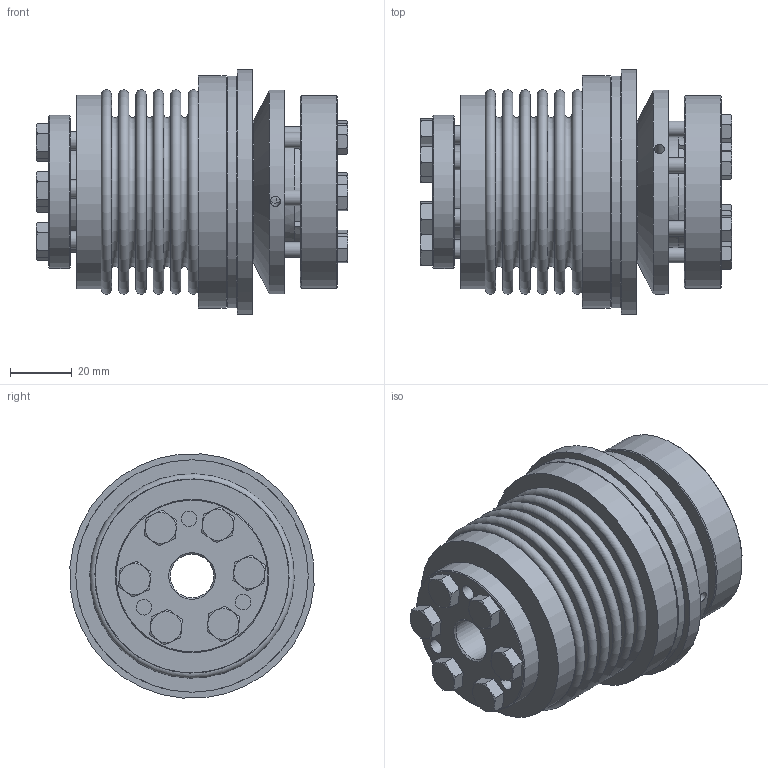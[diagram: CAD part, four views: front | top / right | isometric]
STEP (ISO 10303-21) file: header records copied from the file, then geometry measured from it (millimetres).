
FILE_DESCRIPTION( ( 'Unknown' ), '1' );
FILE_NAME( 'K:/Konstruktion/Korrigierte 3D Modelle/KBK-B-IA/KBK-BIA-60-100.stp', 'Unknown', ( 'Unknown' ), ( 'Unknown' ), 'PSStep 16.0.42', 'Unknown', ' ' );
FILE_SCHEMA( ( 'AUTOMOTIVE_DESIGN { 1 0 10303 214 1 1 1 1 }' ) );
Length unit declared in the file: millimetre
Products named in the file (18): KBK L-A-60 Grundkörper_0; Druckring 60_0; Stellring 60_0; din_en_24017_m5x20_0; Druckring L-A-60_0; BA5-60; BA60_Standard_2; Hex Screw GradeC_DIN_ISO 4018 - M6 x 20-NN_2; KB60_Standard_0; A-60; Assem1; BL60_Standard_0; Flansch BK60
Assembly tree (27 placements, depth 4):
  Assem1
    BL60_Standard_0
    Flansch BK60
    BA5-60
      BA60_Standard_2
      Hex Screw GradeC_DIN_ISO 4018 - M6 x 20-NN_2  x6
      KB60_Standard_0
    A-60
      Stellring 60_0
        Stellring 60_0
      Druckring 60_0
        Druckring 60_0
      KBK L-A-60 Grundkörper_0
        KBK L-A-60 Grundkörper_0
      din_en_24017_m5x20_0  x6
        din_en_24017_m5x20_0
      Druckring L-A-60_0
        Druckring L-A-60_0
Bounding box: 100.55 x 78.76 x 78.76 mm (x, y, z)
Volume: 208884 mm3; surface area: 125235.1 mm2
Topology: 20 solids, 20 shells, 416 faces, 854 edges, 541 vertices
Faces by surface type: plane 191, cone 116, cylinder 76, torus 33
Full cylindrical faces by diameter (mm): 3.242 x3, 4 x3, 4.134 x6, 5 x9, 5.5 x6, 6 x12, 6.6 x6, 6.88 x6, 14 x1, 15 x1, 30.2 x1, 33 x1, 35 x2, 35.937 x1, 42 x1, 46 x3, 46.5 x1, 47 x1, 49.5 x1, 56.3 x2, 57.3 x2, 61.3 x1, 62.5 x2, 66 x1, 75 x2, 79 x1
Entity records: 7832 total; most frequent: CARTESIAN_POINT 1290, DIRECTION 1020, ORIENTED_EDGE 632, AXIS2_PLACEMENT_3D 486, EDGE_LOOP 438, EDGE_CURVE 316, FACE_OUTER_BOUND 310, VERTEX_POINT 280
